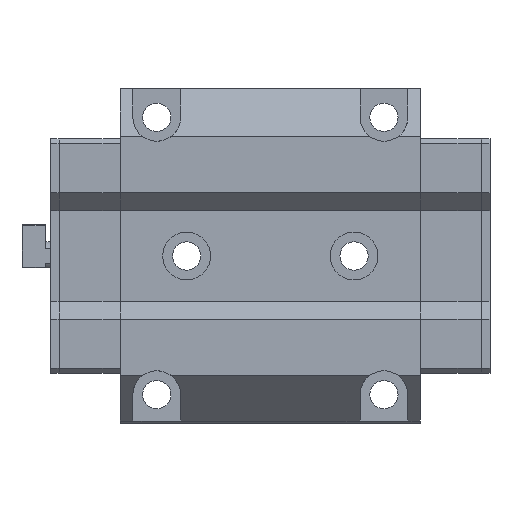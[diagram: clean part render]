
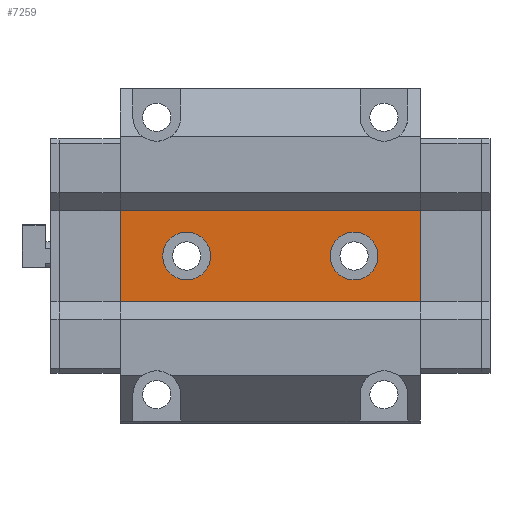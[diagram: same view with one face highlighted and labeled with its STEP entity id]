
A CAD part, front view. The second image highlights one B-rep face of the part: STEP entity #7259.
In plain terms, the highlighted planar face has unit normal (0, -1, 0).
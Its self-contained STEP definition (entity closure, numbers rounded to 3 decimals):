
#216 = DIRECTION ( 'NONE',  ( 0., 1., 0. ) ) ;
#292 = FACE_BOUND ( 'NONE', #8389, .T. ) ;
#305 = CARTESIAN_POINT ( 'NONE',  ( -62.75, 0., 12.75 ) ) ;
#522 = CARTESIAN_POINT ( 'NONE',  ( 91.75, 0., 25.5 ) ) ;
#530 = DIRECTION ( 'NONE',  ( -1., 0., 0. ) ) ;
#567 = FACE_OUTER_BOUND ( 'NONE', #1241, .T. ) ;
#638 = VERTEX_POINT ( 'NONE', #7422 ) ;
#657 = AXIS2_PLACEMENT_3D ( 'NONE', #5004, #4818, #4194 ) ;
#995 = EDGE_CURVE ( 'NONE', #8022, #4759, #2779, .T. ) ;
#1170 = VECTOR ( 'NONE', #8150, 1000. ) ;
#1224 = VERTEX_POINT ( 'NONE', #7546 ) ;
#1241 = EDGE_LOOP ( 'NONE', ( #8268, #6746, #3134, #1723 ) ) ;
#1260 = AXIS2_PLACEMENT_3D ( 'NONE', #7888, #3447, #8643 ) ;
#1272 = EDGE_LOOP ( 'NONE', ( #2287, #6910 ) ) ;
#1370 = CARTESIAN_POINT ( 'NONE',  ( 62.75, 0., -25.5 ) ) ;
#1543 = EDGE_CURVE ( 'NONE', #8423, #4534, #8081, .T. ) ;
#1609 = FACE_BOUND ( 'NONE', #1272, .T. ) ;
#1711 = EDGE_CURVE ( 'NONE', #4759, #8022, #4908, .T. ) ;
#1723 = ORIENTED_EDGE ( 'NONE', *, *, #6883, .F. ) ;
#1728 = DIRECTION ( 'NONE',  ( 0., 0., -1. ) ) ;
#2021 = AXIS2_PLACEMENT_3D ( 'NONE', #8553, #4120, #7004 ) ;
#2287 = ORIENTED_EDGE ( 'NONE', *, *, #1711, .T. ) ;
#2507 = CARTESIAN_POINT ( 'NONE',  ( -35., 0., -10. ) ) ;
#2580 = LINE ( 'NONE', #305, #6772 ) ;
#2779 = CIRCLE ( 'NONE', #657, 10. ) ;
#2784 = CARTESIAN_POINT ( 'NONE',  ( -62.75, 0., 25.5 ) ) ;
#3054 = EDGE_CURVE ( 'NONE', #638, #3644, #2580, .T. ) ;
#3134 = ORIENTED_EDGE ( 'NONE', *, *, #3054, .F. ) ;
#3160 = CARTESIAN_POINT ( 'NONE',  ( 35., 0., 0. ) ) ;
#3447 = DIRECTION ( 'NONE',  ( 0., 1., 0. ) ) ;
#3644 = VERTEX_POINT ( 'NONE', #2784 ) ;
#3824 = EDGE_CURVE ( 'NONE', #4534, #8423, #5450, .T. ) ;
#4120 = DIRECTION ( 'NONE',  ( 0., 1., 0. ) ) ;
#4144 = CARTESIAN_POINT ( 'NONE',  ( 91.75, 0., -25.5 ) ) ;
#4194 = DIRECTION ( 'NONE',  ( 0., 0., -1. ) ) ;
#4253 = VERTEX_POINT ( 'NONE', #1370 ) ;
#4534 = VERTEX_POINT ( 'NONE', #9229 ) ;
#4584 = AXIS2_PLACEMENT_3D ( 'NONE', #522, #6355, #5550 ) ;
#4647 = LINE ( 'NONE', #7625, #5133 ) ;
#4759 = VERTEX_POINT ( 'NONE', #2507 ) ;
#4818 = DIRECTION ( 'NONE',  ( 0., 1., 0. ) ) ;
#4864 = ORIENTED_EDGE ( 'NONE', *, *, #1543, .T. ) ;
#4908 = CIRCLE ( 'NONE', #1260, 10. ) ;
#5004 = CARTESIAN_POINT ( 'NONE',  ( -35., 0., 0. ) ) ;
#5133 = VECTOR ( 'NONE', #6685, 1000. ) ;
#5268 = LINE ( 'NONE', #5884, #1170 ) ;
#5450 = CIRCLE ( 'NONE', #6041, 10. ) ;
#5550 = DIRECTION ( 'NONE',  ( 0., 0., -1. ) ) ;
#5884 = CARTESIAN_POINT ( 'NONE',  ( 91.75, 0., 25.5 ) ) ;
#6041 = AXIS2_PLACEMENT_3D ( 'NONE', #3160, #216, #1728 ) ;
#6185 = CARTESIAN_POINT ( 'NONE',  ( -35., 0., 10. ) ) ;
#6355 = DIRECTION ( 'NONE',  ( 0., 1., 0. ) ) ;
#6685 = DIRECTION ( 'NONE',  ( 0., 0., -1. ) ) ;
#6746 = ORIENTED_EDGE ( 'NONE', *, *, #7621, .T. ) ;
#6772 = VECTOR ( 'NONE', #8355, 1000. ) ;
#6883 = EDGE_CURVE ( 'NONE', #4253, #638, #6980, .T. ) ;
#6910 = ORIENTED_EDGE ( 'NONE', *, *, #995, .T. ) ;
#6980 = LINE ( 'NONE', #4144, #8060 ) ;
#6986 = ORIENTED_EDGE ( 'NONE', *, *, #3824, .T. ) ;
#7004 = DIRECTION ( 'NONE',  ( 0., 0., -1. ) ) ;
#7245 = CARTESIAN_POINT ( 'NONE',  ( 35., 0., 10. ) ) ;
#7259 = ADVANCED_FACE ( 'NONE', ( #292, #1609, #567 ), #7586, .F. ) ;
#7422 = CARTESIAN_POINT ( 'NONE',  ( -62.75, 0., -25.5 ) ) ;
#7546 = CARTESIAN_POINT ( 'NONE',  ( 62.75, 0., 25.5 ) ) ;
#7586 = PLANE ( 'NONE',  #4584 ) ;
#7621 = EDGE_CURVE ( 'NONE', #1224, #3644, #5268, .T. ) ;
#7625 = CARTESIAN_POINT ( 'NONE',  ( 62.75, 0., 12.75 ) ) ;
#7888 = CARTESIAN_POINT ( 'NONE',  ( -35., 0., 0. ) ) ;
#8022 = VERTEX_POINT ( 'NONE', #6185 ) ;
#8060 = VECTOR ( 'NONE', #530, 1000. ) ;
#8081 = CIRCLE ( 'NONE', #2021, 10. ) ;
#8150 = DIRECTION ( 'NONE',  ( -1., 0., 0. ) ) ;
#8194 = EDGE_CURVE ( 'NONE', #1224, #4253, #4647, .T. ) ;
#8268 = ORIENTED_EDGE ( 'NONE', *, *, #8194, .F. ) ;
#8355 = DIRECTION ( 'NONE',  ( 0., 0., 1. ) ) ;
#8389 = EDGE_LOOP ( 'NONE', ( #6986, #4864 ) ) ;
#8423 = VERTEX_POINT ( 'NONE', #7245 ) ;
#8553 = CARTESIAN_POINT ( 'NONE',  ( 35., 0., 0. ) ) ;
#8643 = DIRECTION ( 'NONE',  ( 0., 0., -1. ) ) ;
#9229 = CARTESIAN_POINT ( 'NONE',  ( 35., 0., -10. ) ) ;
